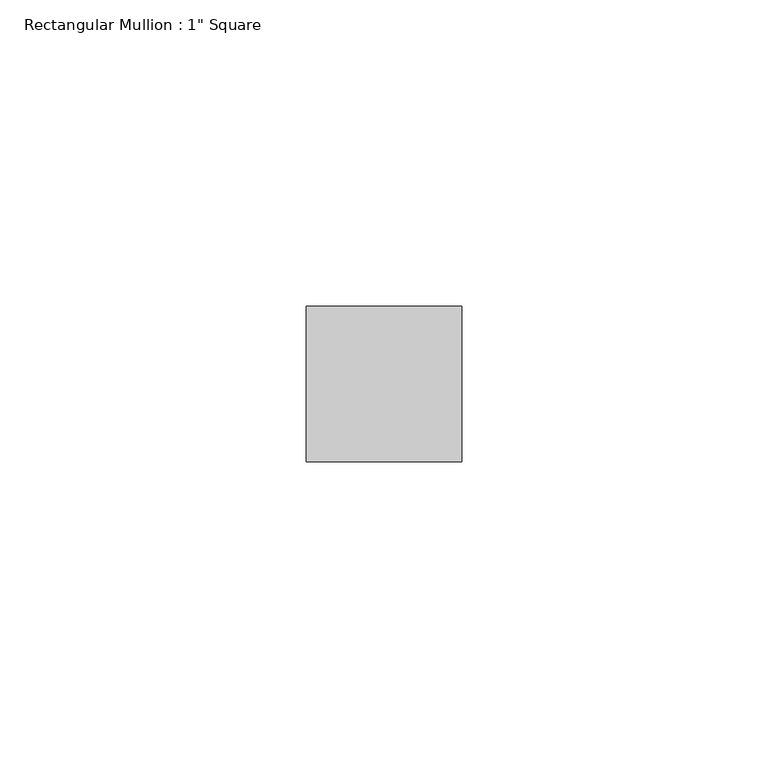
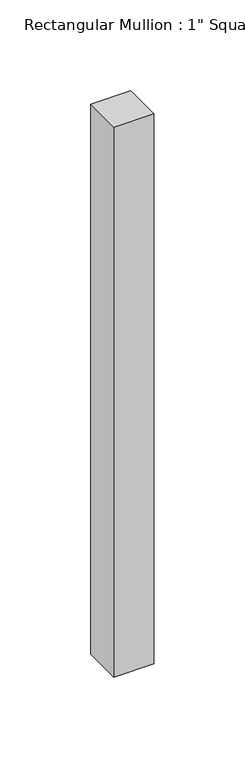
"""IFC4 building model written with IfcOpenShell, lengths in millimetres: member geometry."""

from ifc_helpers import new_model, si_unit, frame, origin, place, context, project, spatial, polyline, outline, extrude, source, transform, mapped, element, save


def member_cef3a68d(model_context):
    return source(origin(), model_context, "Body", "SweptSolid", [
        extrude(outline(polyline([(12.7, 12.7), (12.7, -12.7), (-12.7, -12.7), (-12.7, 12.7), (12.7, 12.7)])), frame((0.0, 0.0, -369.4169828), z_axis=(0.0, 0.0, 1.0), x_axis=(1.0, 0.0, 0.0)), (0.0, 0.0, 1.0), 369.4169828),
    ])


if __name__ == "__main__":
    model = new_model("IFC4")
    model_context = context("Model", 3, world=origin())
    ifc_project = project(units=[si_unit("LENGTHUNIT", "METRE", prefix="MILLI")], contexts=[model_context])
    site = spatial("IfcSite", under=ifc_project)
    building = spatial("IfcBuilding", under=site)
    placement = place(None, origin())
    member_shape = member_cef3a68d(model_context)
    element("IfcMember", 1, ObjectType="Rectangular Mullion : 1\" Square", at=placement, inside=building, context=model_context, shape_type="MappedRepresentation", body=[
        mapped(member_shape, transform((0.0, 0.0, 0.0), x_axis=(1.0, 0.0, 0.0), y_axis=(0.0, 1.0, 0.0), z_axis=(0.0, 0.0, 1.0))),
    ])
    save(model, "model.ifc")
